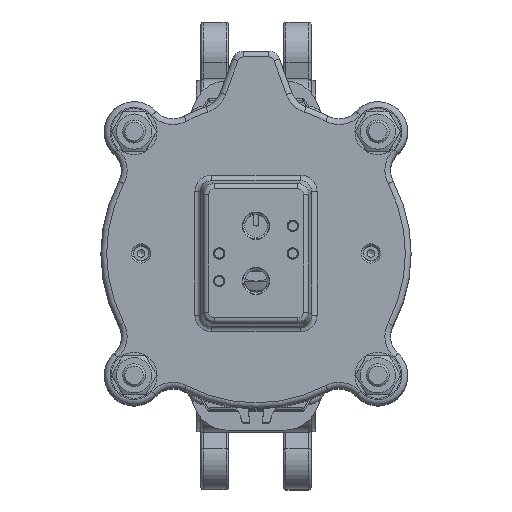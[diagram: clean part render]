
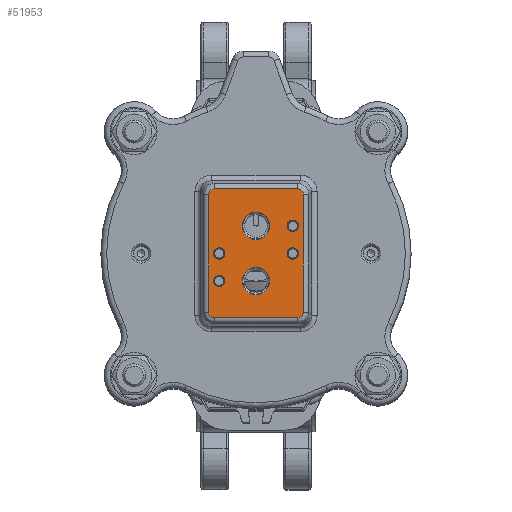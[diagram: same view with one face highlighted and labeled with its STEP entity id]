
A CAD part, top view. The second image highlights one B-rep face of the part: STEP entity #51953.
In plain terms, the highlighted planar face has unit normal (0, 0, 1).
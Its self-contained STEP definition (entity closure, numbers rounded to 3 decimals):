
#456=ELLIPSE('',#55467,2.673,2.5);
#457=ELLIPSE('',#55468,2.673,2.5);
#458=ELLIPSE('',#55469,2.673,2.5);
#459=ELLIPSE('',#55470,2.673,2.5);
#3075=LINE('',#78073,#6848);
#3076=LINE('',#78077,#6849);
#3077=LINE('',#78081,#6850);
#3078=LINE('',#78084,#6851);
#6848=VECTOR('',#62090,10.);
#6849=VECTOR('',#62093,10.);
#6850=VECTOR('',#62096,10.);
#6851=VECTOR('',#62099,10.);
#10956=FACE_BOUND('',#14673,.T.);
#10957=FACE_BOUND('',#14674,.T.);
#10958=FACE_BOUND('',#14675,.T.);
#10959=FACE_BOUND('',#14676,.T.);
#10960=FACE_BOUND('',#14677,.T.);
#10961=FACE_BOUND('',#14678,.T.);
#11488=FACE_OUTER_BOUND('',#14672,.T.);
#14672=EDGE_LOOP('',(#35238,#35239,#35240,#35241,#35242,#35243,#35244,#35245));
#14673=EDGE_LOOP('',(#35246));
#14674=EDGE_LOOP('',(#35247));
#14675=EDGE_LOOP('',(#35248));
#14676=EDGE_LOOP('',(#35249));
#14677=EDGE_LOOP('',(#35250));
#14678=EDGE_LOOP('',(#35251));
#18187=CIRCLE('',#55465,2.5);
#18188=CIRCLE('',#55471,2.5);
#18189=CIRCLE('',#55472,2.5);
#18190=CIRCLE('',#55473,6.);
#18191=CIRCLE('',#55474,6.);
#18192=CIRCLE('',#55475,2.5);
#21172=VERTEX_POINT('',#78065);
#21173=VERTEX_POINT('',#78069);
#21174=VERTEX_POINT('',#78070);
#21175=VERTEX_POINT('',#78072);
#21176=VERTEX_POINT('',#78074);
#21177=VERTEX_POINT('',#78076);
#21178=VERTEX_POINT('',#78078);
#21179=VERTEX_POINT('',#78080);
#21180=VERTEX_POINT('',#78082);
#21181=VERTEX_POINT('',#78085);
#21182=VERTEX_POINT('',#78087);
#21183=VERTEX_POINT('',#78089);
#21184=VERTEX_POINT('',#78091);
#21185=VERTEX_POINT('',#78093);
#26551=EDGE_CURVE('',#21172,#21172,#18187,.T.);
#26552=EDGE_CURVE('',#21173,#21174,#456,.T.);
#26553=EDGE_CURVE('',#21175,#21173,#3075,.T.);
#26554=EDGE_CURVE('',#21176,#21175,#457,.T.);
#26555=EDGE_CURVE('',#21177,#21176,#3076,.T.);
#26556=EDGE_CURVE('',#21178,#21177,#458,.T.);
#26557=EDGE_CURVE('',#21179,#21178,#3077,.T.);
#26558=EDGE_CURVE('',#21180,#21179,#459,.T.);
#26559=EDGE_CURVE('',#21174,#21180,#3078,.T.);
#26560=EDGE_CURVE('',#21181,#21181,#18188,.T.);
#26561=EDGE_CURVE('',#21182,#21182,#18189,.T.);
#26562=EDGE_CURVE('',#21183,#21183,#18190,.T.);
#26563=EDGE_CURVE('',#21184,#21184,#18191,.T.);
#26564=EDGE_CURVE('',#21185,#21185,#18192,.T.);
#35238=ORIENTED_EDGE('',*,*,#26552,.F.);
#35239=ORIENTED_EDGE('',*,*,#26553,.F.);
#35240=ORIENTED_EDGE('',*,*,#26554,.F.);
#35241=ORIENTED_EDGE('',*,*,#26555,.F.);
#35242=ORIENTED_EDGE('',*,*,#26556,.F.);
#35243=ORIENTED_EDGE('',*,*,#26557,.F.);
#35244=ORIENTED_EDGE('',*,*,#26558,.F.);
#35245=ORIENTED_EDGE('',*,*,#26559,.F.);
#35246=ORIENTED_EDGE('',*,*,#26560,.F.);
#35247=ORIENTED_EDGE('',*,*,#26561,.F.);
#35248=ORIENTED_EDGE('',*,*,#26562,.F.);
#35249=ORIENTED_EDGE('',*,*,#26563,.F.);
#35250=ORIENTED_EDGE('',*,*,#26564,.F.);
#35251=ORIENTED_EDGE('',*,*,#26551,.F.);
#50489=PLANE('',#55466);
#51953=ADVANCED_FACE('',(#11488,#10956,#10957,#10958,#10959,#10960,#10961),
#50489,.F.);
#55465=AXIS2_PLACEMENT_3D('',#78067,#62084,#62085);
#55466=AXIS2_PLACEMENT_3D('',#78068,#62086,#62087);
#55467=AXIS2_PLACEMENT_3D('',#78071,#62088,#62089);
#55468=AXIS2_PLACEMENT_3D('',#78075,#62091,#62092);
#55469=AXIS2_PLACEMENT_3D('',#78079,#62094,#62095);
#55470=AXIS2_PLACEMENT_3D('',#78083,#62097,#62098);
#55471=AXIS2_PLACEMENT_3D('',#78086,#62100,#62101);
#55472=AXIS2_PLACEMENT_3D('',#78088,#62102,#62103);
#55473=AXIS2_PLACEMENT_3D('',#78090,#62104,#62105);
#55474=AXIS2_PLACEMENT_3D('',#78092,#62106,#62107);
#55475=AXIS2_PLACEMENT_3D('',#78094,#62108,#62109);
#62084=DIRECTION('center_axis',(0.,0.,
1.));
#62085=DIRECTION('ref_axis',(0.,-1.,0.));
#62086=DIRECTION('center_axis',(0.,0.,
-1.));
#62087=DIRECTION('ref_axis',(0.,-1.,0.));
#62088=DIRECTION('center_axis',(0.,0.,
-1.));
#62089=DIRECTION('ref_axis',(0.707,-0.707,0.));
#62090=DIRECTION('',(0.,-1.,0.));
#62091=DIRECTION('center_axis',(0.,0.,
-1.));
#62092=DIRECTION('ref_axis',(0.707,0.707,0.));
#62093=DIRECTION('',(1.,0.,0.));
#62094=DIRECTION('center_axis',(0.,0.,
-1.));
#62095=DIRECTION('ref_axis',(-0.707,0.707,0.));
#62096=DIRECTION('',(0.,1.,0.));
#62097=DIRECTION('center_axis',(0.,0.,
-1.));
#62098=DIRECTION('ref_axis',(-0.707,-0.707,0.));
#62099=DIRECTION('',(-1.,0.,0.));
#62100=DIRECTION('center_axis',(0.,0.,
1.));
#62101=DIRECTION('ref_axis',(0.,-1.,0.));
#62102=DIRECTION('center_axis',(0.,0.,
1.));
#62103=DIRECTION('ref_axis',(0.,-1.,0.));
#62104=DIRECTION('center_axis',(0.,0.,
1.));
#62105=DIRECTION('ref_axis',(0.,-1.,0.));
#62106=DIRECTION('center_axis',(0.,0.,
1.));
#62107=DIRECTION('ref_axis',(0.,-1.,0.));
#62108=DIRECTION('center_axis',(0.,0.,
1.));
#62109=DIRECTION('ref_axis',(0.,-1.,0.));
#78065=CARTESIAN_POINT('',(-16.,-9.5,646.));
#78067=CARTESIAN_POINT('Origin',(-16.,-12.,646.));
#78068=CARTESIAN_POINT('Origin',(0.,0.,
646.));
#78069=CARTESIAN_POINT('',(20.582,-25.667,646.));
#78070=CARTESIAN_POINT('',(18.167,-28.082,646.));
#78071=CARTESIAN_POINT('Origin',(17.993,-25.493,646.));
#78072=CARTESIAN_POINT('',(20.582,25.667,646.));
#78073=CARTESIAN_POINT('',(20.582,-15.,646.));
#78074=CARTESIAN_POINT('',(18.167,28.082,646.));
#78075=CARTESIAN_POINT('Origin',(17.993,25.493,646.));
#78076=CARTESIAN_POINT('',(-18.167,28.082,646.));
#78077=CARTESIAN_POINT('',(11.25,28.082,646.));
#78078=CARTESIAN_POINT('',(-20.582,25.667,646.));
#78079=CARTESIAN_POINT('Origin',(-17.993,25.493,646.));
#78080=CARTESIAN_POINT('',(-20.582,-25.667,646.));
#78081=CARTESIAN_POINT('',(-20.582,15.,646.));
#78082=CARTESIAN_POINT('',(-18.167,-28.082,646.));
#78083=CARTESIAN_POINT('Origin',(-17.993,-25.493,646.));
#78084=CARTESIAN_POINT('',(-11.25,-28.082,646.));
#78085=CARTESIAN_POINT('',(-16.,2.5,646.));
#78086=CARTESIAN_POINT('Origin',(-16.,0.,
646.));
#78087=CARTESIAN_POINT('',(16.,14.5,646.));
#78088=CARTESIAN_POINT('Origin',(16.,12.,646.));
#78089=CARTESIAN_POINT('',(0.,18.,646.));
#78090=CARTESIAN_POINT('Origin',(0.,12.,
646.));
#78091=CARTESIAN_POINT('',(0.,-6.,646.));
#78092=CARTESIAN_POINT('Origin',(0.,-12.,
646.));
#78093=CARTESIAN_POINT('',(16.,2.5,646.));
#78094=CARTESIAN_POINT('Origin',(16.,0.,
646.));
